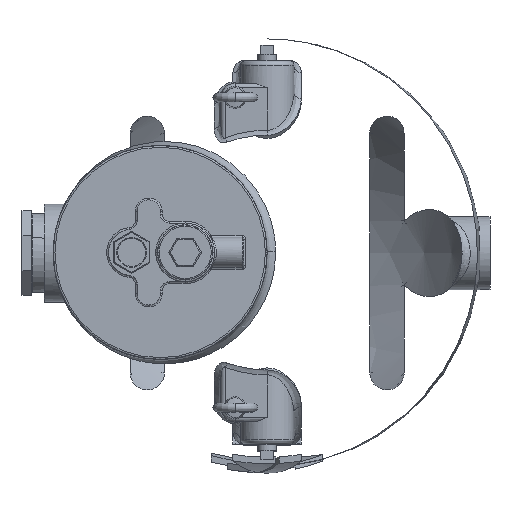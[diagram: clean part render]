
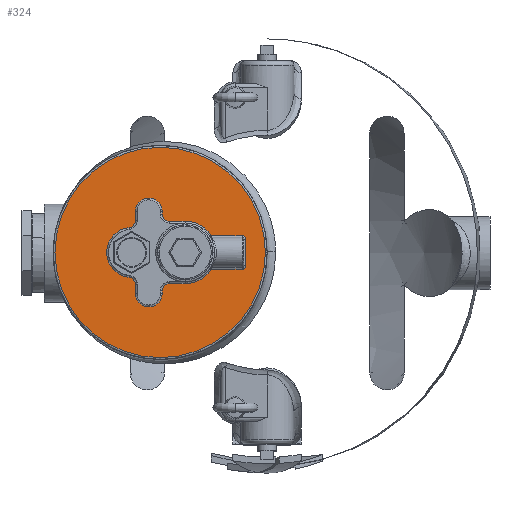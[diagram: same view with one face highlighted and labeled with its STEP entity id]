
A CAD part, top view. The second image highlights one B-rep face of the part: STEP entity #324.
In plain terms, the highlighted planar face has unit normal (0, 0, 1) as drawn and (0, 1, 0) by its records, which use the part's own axes.
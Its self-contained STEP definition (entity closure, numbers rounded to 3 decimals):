
#324=ADVANCED_FACE('',(#1586,#1587),#1585,.T.);
#1585=PLANE('',#22641);
#1586=FACE_OUTER_BOUND('',#22642,.T.);
#1587=FACE_BOUND('',#22643,.T.);
#22638=CARTESIAN_POINT('',(126.,283.5,-214.382));
#22639=DIRECTION('',(0.,1.,0.));
#22640=DIRECTION('',(-1.,0.,0.));
#22641=AXIS2_PLACEMENT_3D('',#22638,#22639,#22640);
#22642=EDGE_LOOP('',(#26629,#26630));
#22643=EDGE_LOOP('',(#26631,#26632,#26633,#26634,#26635,#26636,#26637,#26638,#26639,#26640,#26641,#26642,#26643,#26644,#26645,#26646,#26647,#26648,#26649,#26650));
#26629=ORIENTED_EDGE('',*,*,#27956,.T.);
#26630=ORIENTED_EDGE('',*,*,#27957,.T.);
#26631=ORIENTED_EDGE('',*,*,#27958,.T.);
#26632=ORIENTED_EDGE('',*,*,#27959,.T.);
#26633=ORIENTED_EDGE('',*,*,#27960,.T.);
#26634=ORIENTED_EDGE('',*,*,#27961,.T.);
#26635=ORIENTED_EDGE('',*,*,#27962,.T.);
#26636=ORIENTED_EDGE('',*,*,#27963,.T.);
#26637=ORIENTED_EDGE('',*,*,#27964,.T.);
#26638=ORIENTED_EDGE('',*,*,#27965,.T.);
#26639=ORIENTED_EDGE('',*,*,#27966,.T.);
#26640=ORIENTED_EDGE('',*,*,#27967,.T.);
#26641=ORIENTED_EDGE('',*,*,#27968,.T.);
#26642=ORIENTED_EDGE('',*,*,#27969,.T.);
#26643=ORIENTED_EDGE('',*,*,#27970,.T.);
#26644=ORIENTED_EDGE('',*,*,#27971,.T.);
#26645=ORIENTED_EDGE('',*,*,#27972,.T.);
#26646=ORIENTED_EDGE('',*,*,#27973,.T.);
#26647=ORIENTED_EDGE('',*,*,#27974,.T.);
#26648=ORIENTED_EDGE('',*,*,#27975,.T.);
#26649=ORIENTED_EDGE('',*,*,#27976,.T.);
#26650=ORIENTED_EDGE('',*,*,#27977,.T.);
#27956=EDGE_CURVE('',#30333,#30334,#30335,.T.);
#27957=EDGE_CURVE('',#30334,#30333,#30341,.T.);
#27958=EDGE_CURVE('',#30347,#30348,#30349,.T.);
#27959=EDGE_CURVE('',#30348,#30355,#30356,.T.);
#27960=EDGE_CURVE('',#30355,#30362,#30363,.T.);
#27961=EDGE_CURVE('',#30362,#30369,#30370,.T.);
#27962=EDGE_CURVE('',#30369,#30376,#30377,.T.);
#27963=EDGE_CURVE('',#30376,#30383,#30384,.T.);
#27964=EDGE_CURVE('',#30383,#30390,#30391,.T.);
#27965=EDGE_CURVE('',#30390,#30397,#30398,.T.);
#27966=EDGE_CURVE('',#30397,#30404,#30405,.T.);
#27967=EDGE_CURVE('',#30404,#30411,#30412,.T.);
#27968=EDGE_CURVE('',#30411,#30418,#30419,.T.);
#27969=EDGE_CURVE('',#30418,#30425,#30426,.T.);
#27970=EDGE_CURVE('',#30425,#30432,#30433,.T.);
#27971=EDGE_CURVE('',#30432,#30439,#30440,.T.);
#27972=EDGE_CURVE('',#30439,#30446,#30447,.T.);
#27973=EDGE_CURVE('',#30446,#30453,#30454,.T.);
#27974=EDGE_CURVE('',#30453,#30460,#30461,.T.);
#27975=EDGE_CURVE('',#30460,#30467,#30468,.T.);
#27976=EDGE_CURVE('',#30467,#30474,#30475,.T.);
#27977=EDGE_CURVE('',#30474,#30347,#30481,.T.);
#30333=VERTEX_POINT('',#36347);
#30334=VERTEX_POINT('',#36348);
#30335=CIRCLE('',#36352,118.);
#30341=CIRCLE('',#36356,118.);
#30347=VERTEX_POINT('',#36357);
#30348=VERTEX_POINT('',#36358);
#30349=LINE('',#36359,#36360);
#30355=VERTEX_POINT('',#36362);
#30356=CIRCLE('',#36366,4.);
#30362=VERTEX_POINT('',#36367);
#30363=LINE('',#36368,#36369);
#30369=VERTEX_POINT('',#36371);
#30370=CIRCLE('',#36375,35.);
#30376=VERTEX_POINT('',#36376);
#30377=LINE('',#36377,#36378);
#30383=VERTEX_POINT('',#36380);
#30384=CIRCLE('',#36384,8.);
#30390=VERTEX_POINT('',#36385);
#30391=LINE('',#36386,#36387);
#30397=VERTEX_POINT('',#36389);
#30398=CIRCLE('',#36393,15.);
#30404=VERTEX_POINT('',#36394);
#30405=LINE('',#36395,#36396);
#30411=VERTEX_POINT('',#36398);
#30412=CIRCLE('',#36402,8.);
#30418=VERTEX_POINT('',#36403);
#30419=CIRCLE('',#36407,28.);
#30425=VERTEX_POINT('',#36408);
#30426=CIRCLE('',#36412,8.);
#30432=VERTEX_POINT('',#36413);
#30433=LINE('',#36414,#36415);
#30439=VERTEX_POINT('',#36417);
#30440=CIRCLE('',#36421,15.);
#30446=VERTEX_POINT('',#36422);
#30447=LINE('',#36423,#36424);
#30453=VERTEX_POINT('',#36426);
#30454=CIRCLE('',#36430,8.);
#30460=VERTEX_POINT('',#36431);
#30461=LINE('',#36432,#36433);
#30467=VERTEX_POINT('',#36435);
#30468=CIRCLE('',#36439,35.);
#30474=VERTEX_POINT('',#36440);
#30475=LINE('',#36441,#36442);
#30481=CIRCLE('',#36447,4.);
#36347=CARTESIAN_POINT('',(-238.,283.5,0.));
#36348=CARTESIAN_POINT('',(-2.,283.5,0.));
#36349=CARTESIAN_POINT('',(-120.,283.5,0.));
#36350=DIRECTION('',(0.,1.,0.));
#36351=DIRECTION('',(-1.,0.,0.));
#36352=AXIS2_PLACEMENT_3D('',#36349,#36350,#36351);
#36353=CARTESIAN_POINT('',(-120.,283.5,0.));
#36354=DIRECTION('',(0.,1.,0.));
#36355=DIRECTION('',(-1.,0.,0.));
#36356=AXIS2_PLACEMENT_3D('',#36353,#36354,#36355);
#36357=CARTESIAN_POINT('',(-24.,283.5,-15.));
#36358=CARTESIAN_POINT('',(-24.,283.5,15.));
#36359=CARTESIAN_POINT('',(-24.,283.5,-15.));
#36360=VECTOR('',#36361,30.);
#36361=DIRECTION('',(0.,0.,1.));
#36362=CARTESIAN_POINT('',(-28.,283.5,19.));
#36363=CARTESIAN_POINT('',(-28.,283.5,15.));
#36364=DIRECTION('',(0.,-1.,0.));
#36365=DIRECTION('',(-1.,0.,0.));
#36366=AXIS2_PLACEMENT_3D('',#36363,#36364,#36365);
#36367=CARTESIAN_POINT('',(-62.606,283.5,19.));
#36368=CARTESIAN_POINT('',(-28.,283.5,19.));
#36369=VECTOR('',#36370,34.606);
#36370=DIRECTION('',(-1.,0.,0.));
#36371=CARTESIAN_POINT('',(-92.,283.5,35.));
#36372=CARTESIAN_POINT('',(-92.,283.5,0.));
#36373=DIRECTION('',(0.,-1.,0.));
#36374=DIRECTION('',(-0.84,0.,-0.543));
#36375=AXIS2_PLACEMENT_3D('',#36372,#36373,#36374);
#36376=CARTESIAN_POINT('',(-109.8,283.5,35.));
#36377=CARTESIAN_POINT('',(-92.,283.5,35.));
#36378=VECTOR('',#36379,17.8);
#36379=DIRECTION('',(-1.,0.,0.));
#36380=CARTESIAN_POINT('',(-117.8,283.5,43.));
#36381=CARTESIAN_POINT('',(-109.8,283.5,43.));
#36382=DIRECTION('',(0.,1.,0.));
#36383=DIRECTION('',(0.,0.,1.));
#36384=AXIS2_PLACEMENT_3D('',#36381,#36382,#36383);
#36385=CARTESIAN_POINT('',(-117.8,283.5,46.));
#36386=CARTESIAN_POINT('',(-117.8,283.5,43.));
#36387=VECTOR('',#36388,3.);
#36388=DIRECTION('',(0.,0.,1.));
#36389=CARTESIAN_POINT('',(-147.8,283.5,46.));
#36390=CARTESIAN_POINT('',(-132.8,283.5,46.));
#36391=DIRECTION('',(0.,-1.,0.));
#36392=DIRECTION('',(-1.,0.,0.));
#36393=AXIS2_PLACEMENT_3D('',#36390,#36391,#36392);
#36394=CARTESIAN_POINT('',(-147.8,283.5,35.799));
#36395=CARTESIAN_POINT('',(-147.8,283.5,46.));
#36396=VECTOR('',#36397,10.201);
#36397=DIRECTION('',(0.,0.,-1.));
#36398=CARTESIAN_POINT('',(-154.956,283.5,27.844));
#36399=CARTESIAN_POINT('',(-155.8,283.5,35.799));
#36400=DIRECTION('',(0.,1.,0.));
#36401=DIRECTION('',(-1.,0.,0.));
#36402=AXIS2_PLACEMENT_3D('',#36399,#36400,#36401);
#36403=CARTESIAN_POINT('',(-154.956,283.5,-27.844));
#36404=CARTESIAN_POINT('',(-152.,283.5,0.));
#36405=DIRECTION('',(0.,-1.,0.));
#36406=DIRECTION('',(0.106,0.,-0.994));
#36407=AXIS2_PLACEMENT_3D('',#36404,#36405,#36406);
#36408=CARTESIAN_POINT('',(-147.8,283.5,-35.799));
#36409=CARTESIAN_POINT('',(-155.8,283.5,-35.799));
#36410=DIRECTION('',(0.,1.,0.));
#36411=DIRECTION('',(-0.106,0.,-0.994));
#36412=AXIS2_PLACEMENT_3D('',#36409,#36410,#36411);
#36413=CARTESIAN_POINT('',(-147.8,283.5,-46.));
#36414=CARTESIAN_POINT('',(-147.8,283.5,-35.799));
#36415=VECTOR('',#36416,10.201);
#36416=DIRECTION('',(0.,0.,-1.));
#36417=CARTESIAN_POINT('',(-117.8,283.5,-46.));
#36418=CARTESIAN_POINT('',(-132.8,283.5,-46.));
#36419=DIRECTION('',(0.,-1.,0.));
#36420=DIRECTION('',(1.,0.,0.));
#36421=AXIS2_PLACEMENT_3D('',#36418,#36419,#36420);
#36422=CARTESIAN_POINT('',(-117.8,283.5,-43.));
#36423=CARTESIAN_POINT('',(-117.8,283.5,-46.));
#36424=VECTOR('',#36425,3.);
#36425=DIRECTION('',(0.,0.,1.));
#36426=CARTESIAN_POINT('',(-109.8,283.5,-35.));
#36427=CARTESIAN_POINT('',(-109.8,283.5,-43.));
#36428=DIRECTION('',(0.,1.,0.));
#36429=DIRECTION('',(1.,0.,0.));
#36430=AXIS2_PLACEMENT_3D('',#36427,#36428,#36429);
#36431=CARTESIAN_POINT('',(-92.,283.5,-35.));
#36432=CARTESIAN_POINT('',(-109.8,283.5,-35.));
#36433=VECTOR('',#36434,17.8);
#36434=DIRECTION('',(1.,0.,0.));
#36435=CARTESIAN_POINT('',(-62.606,283.5,-19.));
#36436=CARTESIAN_POINT('',(-92.,283.5,0.));
#36437=DIRECTION('',(0.,-1.,0.));
#36438=DIRECTION('',(0.,0.,1.));
#36439=AXIS2_PLACEMENT_3D('',#36436,#36437,#36438);
#36440=CARTESIAN_POINT('',(-28.,283.5,-19.));
#36441=CARTESIAN_POINT('',(-62.606,283.5,-19.));
#36442=VECTOR('',#36443,34.606);
#36443=DIRECTION('',(1.,0.,0.));
#36444=CARTESIAN_POINT('',(-28.,283.5,-15.));
#36445=DIRECTION('',(0.,-1.,0.));
#36446=DIRECTION('',(0.,0.,1.));
#36447=AXIS2_PLACEMENT_3D('',#36444,#36445,#36446);
